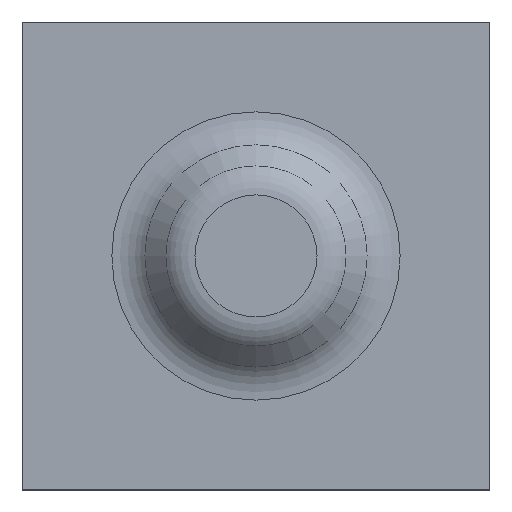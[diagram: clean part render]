
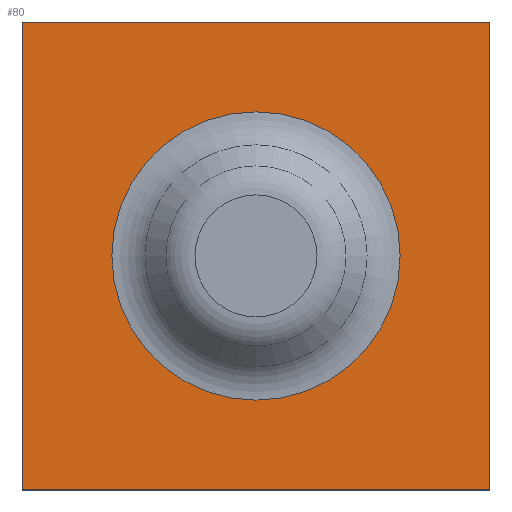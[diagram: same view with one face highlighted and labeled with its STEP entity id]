
A CAD part, top view. The second image highlights one B-rep face of the part: STEP entity #80.
In plain terms, the highlighted planar face has unit normal (0, 0, 1).
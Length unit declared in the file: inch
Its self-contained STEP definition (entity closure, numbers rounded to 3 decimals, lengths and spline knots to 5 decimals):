
#80=ADVANCED_FACE('',(#101,#102),#103,.T.);
#101=FACE_OUTER_BOUND('',#137,.T.);
#102=FACE_BOUND('',#138,.T.);
#103=PLANE('',#139);
#137=EDGE_LOOP('',(#198,#199,#200,#201));
#138=EDGE_LOOP('',(#202));
#139=AXIS2_PLACEMENT_3D('',#203,#204,#205);
#198=ORIENTED_EDGE('',*,*,#247,.T.);
#199=ORIENTED_EDGE('',*,*,#250,.T.);
#200=ORIENTED_EDGE('',*,*,#256,.T.);
#201=ORIENTED_EDGE('',*,*,#254,.T.);
#202=ORIENTED_EDGE('',*,*,#257,.T.);
#203=CARTESIAN_POINT('',(-17.175,0.,0.05));
#204=DIRECTION('',(0.0,0.,1.0));
#205=DIRECTION('',(1.0,-0.0,0.0));
#247=EDGE_CURVE('',#265,#269,#271,.T.);
#250=EDGE_CURVE('',#269,#274,#276,.T.);
#254=EDGE_CURVE('',#282,#265,#283,.T.);
#256=EDGE_CURVE('',#274,#282,#285,.T.);
#257=EDGE_CURVE('',#286,#286,#287,.T.);
#265=VERTEX_POINT('',#301);
#269=VERTEX_POINT('',#307);
#271=LINE('',#310,#311);
#274=VERTEX_POINT('',#315);
#276=LINE('',#318,#319);
#282=VERTEX_POINT('',#327);
#283=LINE('',#328,#329);
#285=LINE('',#332,#333);
#286=VERTEX_POINT('',#334);
#287=CIRCLE('',#335,0.61605);
#301=CARTESIAN_POINT('',(-11.0,7.0,0.05));
#307=CARTESIAN_POINT('',(-9.0,7.0,0.05));
#310=CARTESIAN_POINT('',(94474.106,7.0,0.05));
#311=VECTOR('',#351,1.0);
#315=CARTESIAN_POINT('',(-9.0,9.0,0.05));
#318=CARTESIAN_POINT('',(-9.0,122636.3592,0.05));
#319=VECTOR('',#354,1.0);
#327=CARTESIAN_POINT('',(-11.0,9.0,0.05));
#328=CARTESIAN_POINT('',(-11.0,59185.38802,0.05));
#329=VECTOR('',#360,1.0);
#332=CARTESIAN_POINT('',(295057.46512,9.0,0.05));
#333=VECTOR('',#362,1.0);
#334=CARTESIAN_POINT('',(-10.0,7.38395,0.05));
#335=AXIS2_PLACEMENT_3D('',#363,#364,#365);
#351=DIRECTION('',(1.0,0.0,0.0));
#354=DIRECTION('',(0.0,1.0,0.));
#360=DIRECTION('',(0.0,-1.0,0.));
#362=DIRECTION('',(-1.0,-0.0,0.0));
#363=CARTESIAN_POINT('',(-10.0,8.0,0.05));
#364=DIRECTION('',(0.0,0.,-1.0));
#365=DIRECTION('',(0.,-1.0,0.));
